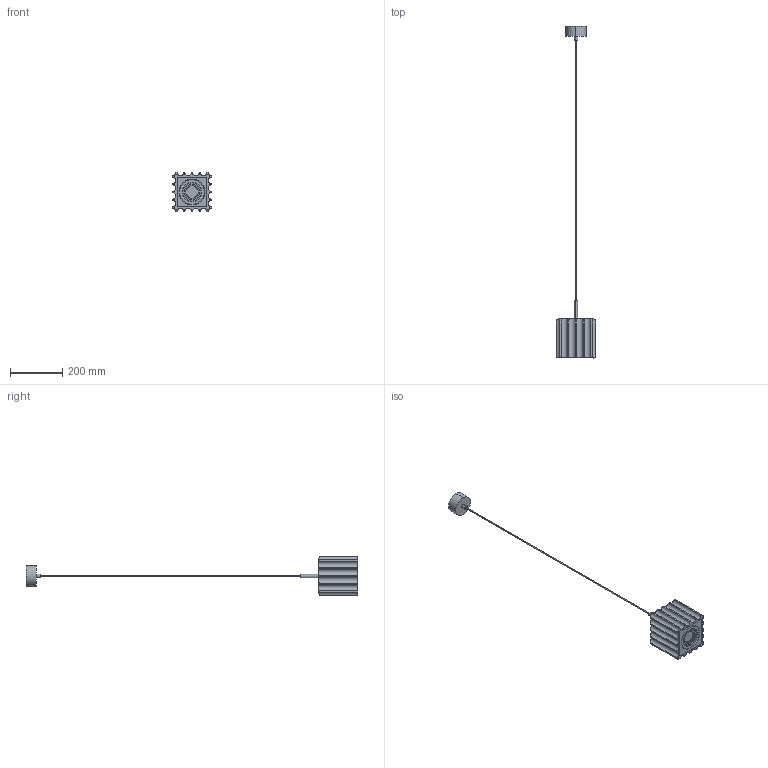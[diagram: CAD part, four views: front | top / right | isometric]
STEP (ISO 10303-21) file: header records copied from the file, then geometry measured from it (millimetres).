
FILE_DESCRIPTION (( 'STEP AP214' ), '1' );
FILE_NAME ('PIRE_C1090_S.STEP', '2025-03-03T15:58:39', ( '' ), ( '' ), 'SwSTEP 2.0', 'SolidWorks 2018', '' );
FILE_SCHEMA (( 'AUTOMOTIVE_DESIGN' ));
Length unit declared in the file: millimetre
Products named in the file (3): MODULO; PIRE_C1090_S; PIRE FLORÓN
Assembly tree (2 placements, depth 2):
  PIRE_C1090_S
    PIRE FLORÓN
    MODULO
Bounding box: 150 x 1275 x 150 mm (x, y, z)
Volume: 1127406 mm3; surface area: 310175.5 mm2
Topology: 10 solids, 10 shells, 145 faces, 364 edges, 242 vertices
Faces by surface type: cylinder 90, plane 51, torus 4
Entity records: 6390 total; most frequent: CARTESIAN_POINT 2756, ORIENTED_EDGE 728, DIRECTION 694, EDGE_CURVE 364, AXIS2_PLACEMENT_3D 260, VERTEX_POINT 242, LINE 174, VECTOR 174
